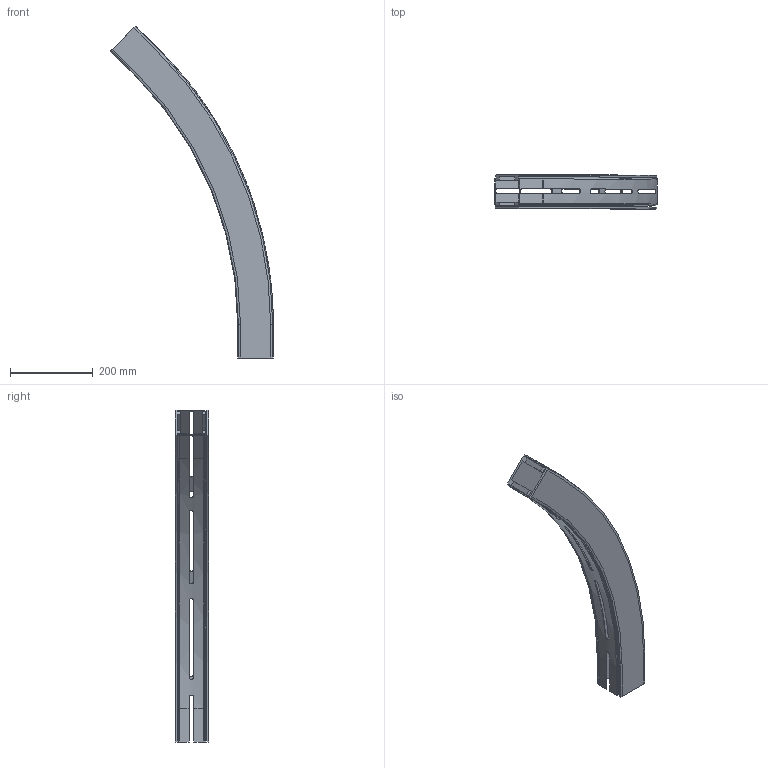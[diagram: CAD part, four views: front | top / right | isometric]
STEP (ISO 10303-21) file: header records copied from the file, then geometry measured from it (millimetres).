
FILE_DESCRIPTION(/* description */ ('GLIDKURVA SERIE 530'),/* implementation_level */ '2;1');
FILE_NAME(/* name */ '530-5375+830-2000-01.stp',/* time_stamp */ '2022-09-20T15:57:29+02:00',/* author */ ('Mathias.Dore'),/* organization */ ('CARRYLINE'),/* preprocessor_version */ 'ST-DEVELOPER v19.2',/* originating_system */ 'Autodesk Inventor 2023',/* authorisation */ '');
FILE_SCHEMA (('AUTOMOTIVE_DESIGN { 1 0 10303 214 3 1 1 }'));
Length unit declared in the file: millimetre
Products named in the file (1): 530-5375+830-2000-01
Bounding box: 393.58 x 82 x 803.37 mm (x, y, z)
Volume: 1254489.2 mm3; surface area: 599891.7 mm2
Topology: 2 solids, 2 shells, 179 faces, 506 edges, 332 vertices
Faces by surface type: plane 115, cylinder 30, bspline 26, torus 4, cone 4
Entity records: 6541 total; most frequent: CARTESIAN_POINT 1864, ORIENTED_EDGE 1012, DIRECTION 862, EDGE_CURVE 506, LINE 354, VECTOR 354, VERTEX_POINT 332, AXIS2_PLACEMENT_3D 254
